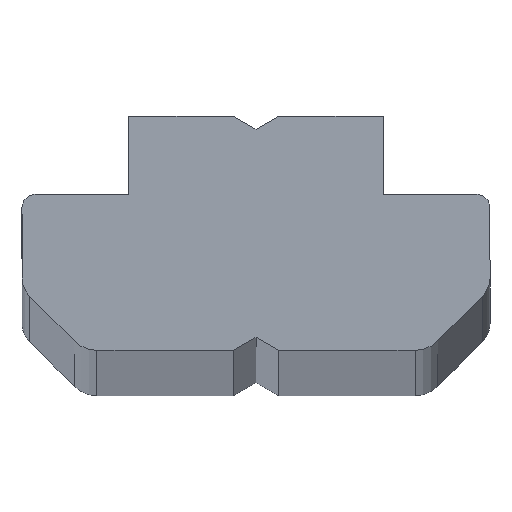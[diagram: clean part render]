
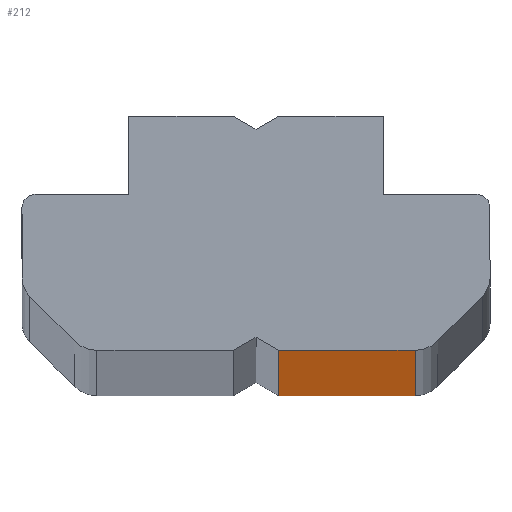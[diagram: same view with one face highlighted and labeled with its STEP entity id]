
A CAD part, top view. The second image highlights one B-rep face of the part: STEP entity #212.
In plain terms, the highlighted planar face has unit normal (0, -1, 0).
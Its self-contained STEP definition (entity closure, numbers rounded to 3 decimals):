
#11 = LINE ( 'NONE', #360, #298 ) ;
#97 = VERTEX_POINT ( 'NONE', #431 ) ;
#106 = CARTESIAN_POINT ( 'NONE',  ( -0.417, -6., -1000. ) ) ;
#165 = DIRECTION ( 'NONE',  ( 0., 0., 1. ) ) ;
#169 = VERTEX_POINT ( 'NONE', #361 ) ;
#175 = CARTESIAN_POINT ( 'NONE',  ( 0.016, -6., -1000. ) ) ;
#182 = EDGE_CURVE ( 'NONE', #752, #169, #191, .T. ) ;
#191 = LINE ( 'NONE', #348, #705 ) ;
#212 = ADVANCED_FACE ( 'NONE', ( #355 ), #318, .T. ) ;
#253 = VECTOR ( 'NONE', #630, 1000. ) ;
#261 = CARTESIAN_POINT ( 'NONE',  ( -0.417, -6., 0. ) ) ;
#276 = AXIS2_PLACEMENT_3D ( 'NONE', #175, #823, #453 ) ;
#287 = LINE ( 'NONE', #106, #344 ) ;
#298 = VECTOR ( 'NONE', #448, 1000. ) ;
#310 = EDGE_CURVE ( 'NONE', #524, #169, #11, .T. ) ;
#318 = PLANE ( 'NONE',  #276 ) ;
#344 = VECTOR ( 'NONE', #165, 1000. ) ;
#347 = EDGE_CURVE ( 'NONE', #97, #524, #433, .T. ) ;
#348 = CARTESIAN_POINT ( 'NONE',  ( 0.016, -6., 0. ) ) ;
#355 = FACE_OUTER_BOUND ( 'NONE', #535, .T. ) ;
#360 = CARTESIAN_POINT ( 'NONE',  ( 4.836, -6., -1000. ) ) ;
#361 = CARTESIAN_POINT ( 'NONE',  ( 4.836, -6., 0. ) ) ;
#414 = CARTESIAN_POINT ( 'NONE',  ( 4.836, -6., -1000. ) ) ;
#415 = ORIENTED_EDGE ( 'NONE', *, *, #768, .F. ) ;
#417 = DIRECTION ( 'NONE',  ( 1., 0., 0. ) ) ;
#431 = CARTESIAN_POINT ( 'NONE',  ( -0.417, -6., -1000. ) ) ;
#433 = LINE ( 'NONE', #821, #253 ) ;
#448 = DIRECTION ( 'NONE',  ( 0., 0., 1. ) ) ;
#453 = DIRECTION ( 'NONE',  ( 0., 0., -1. ) ) ;
#524 = VERTEX_POINT ( 'NONE', #414 ) ;
#535 = EDGE_LOOP ( 'NONE', ( #552, #415, #560, #797 ) ) ;
#552 = ORIENTED_EDGE ( 'NONE', *, *, #182, .F. ) ;
#560 = ORIENTED_EDGE ( 'NONE', *, *, #347, .T. ) ;
#630 = DIRECTION ( 'NONE',  ( 1., 0., 0. ) ) ;
#705 = VECTOR ( 'NONE', #417, 1000. ) ;
#752 = VERTEX_POINT ( 'NONE', #261 ) ;
#768 = EDGE_CURVE ( 'NONE', #97, #752, #287, .T. ) ;
#797 = ORIENTED_EDGE ( 'NONE', *, *, #310, .T. ) ;
#821 = CARTESIAN_POINT ( 'NONE',  ( 0.016, -6., -1000. ) ) ;
#823 = DIRECTION ( 'NONE',  ( 0., -1., 0. ) ) ;
